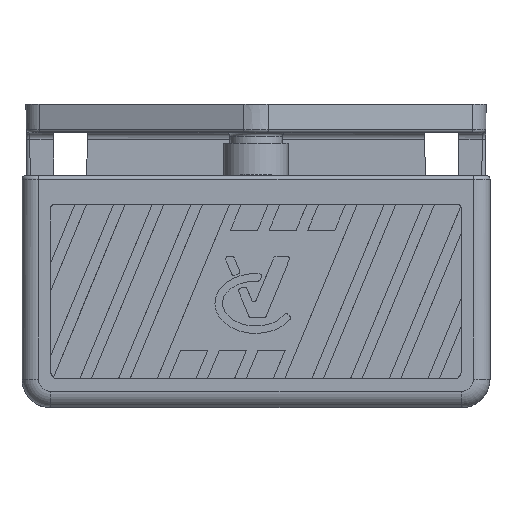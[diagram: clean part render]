
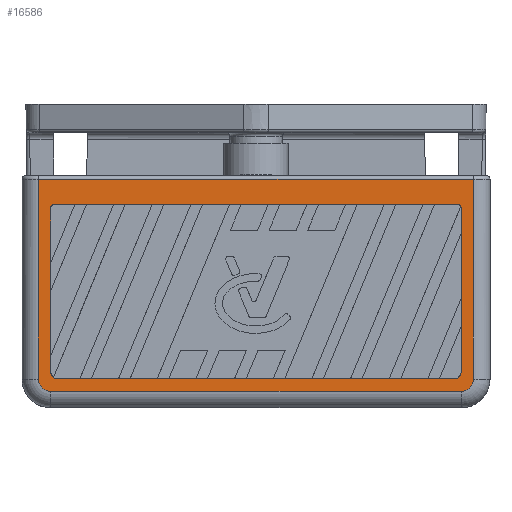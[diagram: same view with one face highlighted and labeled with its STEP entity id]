
A CAD part, front view. The second image highlights one B-rep face of the part: STEP entity #16586.
In plain terms, the highlighted planar face has unit normal (0, -1, 0) as drawn and (0, 0, 1) by its records, which use the part's own axes.
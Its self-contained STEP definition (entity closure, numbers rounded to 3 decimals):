
#160 = ORIENTED_EDGE ( 'NONE', *, *, #35277, .T. ) ;
#229 = DIRECTION ( 'NONE',  ( 0., 0., -1. ) ) ;
#723 = VECTOR ( 'NONE', #24442, 1000. ) ;
#1559 = EDGE_CURVE ( 'NONE', #21638, #21671, #14546, .T. ) ;
#1912 = LINE ( 'NONE', #27659, #34666 ) ;
#2143 = LINE ( 'NONE', #12544, #10408 ) ;
#2251 = CARTESIAN_POINT ( 'NONE',  ( -28.305, 12.219, 3.5 ) ) ;
#2341 = CARTESIAN_POINT ( 'NONE',  ( -27.719, 12.219, 3.5 ) ) ;
#2343 = LINE ( 'NONE', #14159, #8611 ) ;
#2480 = CARTESIAN_POINT ( 'NONE',  ( 28.219, -12.219, 3.5 ) ) ;
#2773 = ORIENTED_EDGE ( 'NONE', *, *, #24084, .T. ) ;
#2874 = FACE_OUTER_BOUND ( 'NONE', #27908, .T. ) ;
#2963 = CARTESIAN_POINT ( 'NONE',  ( -28.75, 12.25, 3.5 ) ) ;
#3060 = VERTEX_POINT ( 'NONE', #22863 ) ;
#3463 = VERTEX_POINT ( 'NONE', #5736 ) ;
#3522 = EDGE_CURVE ( 'NONE', #8889, #27818, #20742, .T. ) ;
#3848 = ORIENTED_EDGE ( 'NONE', *, *, #4167, .T. ) ;
#4167 = EDGE_CURVE ( 'NONE', #35154, #23277, #7636, .T. ) ;
#4351 = CARTESIAN_POINT ( 'NONE',  ( 28.719, 12.219, 3.5 ) ) ;
#4879 = CARTESIAN_POINT ( 'NONE',  ( 30.439, 12.25, 3.5 ) ) ;
#5274 = CARTESIAN_POINT ( 'NONE',  ( 28.75, 12.25, 3.5 ) ) ;
#5321 = CARTESIAN_POINT ( 'NONE',  ( 28.719, -12.012, 3.5 ) ) ;
#5552 = EDGE_CURVE ( 'NONE', #34509, #36035, #10334, .T. ) ;
#5736 = CARTESIAN_POINT ( 'NONE',  ( 28.719, -11.719, 3.5 ) ) ;
#5791 = CARTESIAN_POINT ( 'NONE',  ( -28.219, -12.219, 3.5 ) ) ;
#5973 = DIRECTION ( 'NONE',  ( -1., 0., 0. ) ) ;
#6690 = CARTESIAN_POINT ( 'NONE',  ( 28.719, 11.219, 3.5 ) ) ;
#7636 = CIRCLE ( 'NONE', #11804, 1.689 ) ;
#7680 = EDGE_CURVE ( 'NONE', #34509, #12288, #11594, .T. ) ;
#7781 = DIRECTION ( 'NONE',  ( 0., 1., 0. ) ) ;
#7846 = ORIENTED_EDGE ( 'NONE', *, *, #5552, .F. ) ;
#7908 = CARTESIAN_POINT ( 'NONE',  ( -27.719, 12.219, 3.5 ) ) ;
#8350 = ORIENTED_EDGE ( 'NONE', *, *, #32457, .T. ) ;
#8611 = VECTOR ( 'NONE', #17354, 1000. ) ;
#8889 = VERTEX_POINT ( 'NONE', #33153 ) ;
#9175 = AXIS2_PLACEMENT_3D ( 'NONE', #5274, #25506, #33806 ) ;
#9505 = CARTESIAN_POINT ( 'NONE',  ( 27.719, 12.219, 3.5 ) ) ;
#10334 = LINE ( 'NONE', #11067, #26271 ) ;
#10408 = VECTOR ( 'NONE', #10435, 1000. ) ;
#10435 = DIRECTION ( 'NONE',  ( 0., 1., 0. ) ) ;
#11067 = CARTESIAN_POINT ( 'NONE',  ( -28.719, -12.219, 3.5 ) ) ;
#11122 = CARTESIAN_POINT ( 'NONE',  ( 28.719, -11.719, 3.5 ) ) ;
#11517 = VERTEX_POINT ( 'NONE', #13819 ) ;
#11594 =( BOUNDED_CURVE ( )  B_SPLINE_CURVE ( 3, ( #13979, #28445, #14161, #14530 ),
 .UNSPECIFIED., .F., .F. ) 
 B_SPLINE_CURVE_WITH_KNOTS ( ( 4, 4 ),
 ( 2.356, 3.927 ),
 .UNSPECIFIED. ) 
 CURVE ( )  GEOMETRIC_REPRESENTATION_ITEM ( )  RATIONAL_B_SPLINE_CURVE ( ( 1., 0.805, 0.805, 1. ) ) 
 REPRESENTATION_ITEM ( '' )  );
#11804 = AXIS2_PLACEMENT_3D ( 'NONE', #2963, #20050, #5973 ) ;
#11980 = ORIENTED_EDGE ( 'NONE', *, *, #21001, .F. ) ;
#12288 = VERTEX_POINT ( 'NONE', #13982 ) ;
#12544 = CARTESIAN_POINT ( 'NONE',  ( 30.439, 12.25, 3.5 ) ) ;
#12899 = CARTESIAN_POINT ( 'NONE',  ( 28.219, -12.219, 3.5 ) ) ;
#13372 = DIRECTION ( 'NONE',  ( 0., -1., 0. ) ) ;
#13696 = EDGE_CURVE ( 'NONE', #11517, #23549, #27627, .T. ) ;
#13819 = CARTESIAN_POINT ( 'NONE',  ( 27.719, 12.219, 3.5 ) ) ;
#13979 = CARTESIAN_POINT ( 'NONE',  ( -28.219, -12.219, 3.5 ) ) ;
#13982 = CARTESIAN_POINT ( 'NONE',  ( -28.719, -11.719, 3.5 ) ) ;
#14145 = CARTESIAN_POINT ( 'NONE',  ( -28.75, 12.25, 3.5 ) ) ;
#14159 = CARTESIAN_POINT ( 'NONE',  ( -28.719, 12.219, 3.5 ) ) ;
#14161 = CARTESIAN_POINT ( 'NONE',  ( -28.719, -12.012, 3.5 ) ) ;
#14530 = CARTESIAN_POINT ( 'NONE',  ( -28.719, -11.719, 3.5 ) ) ;
#14546 = CIRCLE ( 'NONE', #9175, 1.689 ) ;
#14768 = AXIS2_PLACEMENT_3D ( 'NONE', #14145, #229, #22420 ) ;
#15438 = LINE ( 'NONE', #27091, #723 ) ;
#16369 =( BOUNDED_CURVE ( )  B_SPLINE_CURVE ( 3, ( #9505, #20957, #26757, #6690 ),
 .UNSPECIFIED., .F., .F. ) 
 B_SPLINE_CURVE_WITH_KNOTS ( ( 4, 4 ),
 ( 2.356, 3.927 ),
 .UNSPECIFIED. ) 
 CURVE ( )  GEOMETRIC_REPRESENTATION_ITEM ( )  RATIONAL_B_SPLINE_CURVE ( ( 1., 0.805, 0.805, 1. ) ) 
 REPRESENTATION_ITEM ( '' )  );
#16586 = ADVANCED_FACE ( 'NONE', ( #2874, #31241 ), #33705, .F. ) ;
#16719 = CARTESIAN_POINT ( 'NONE',  ( -28.719, 11.219, 3.5 ) ) ;
#17354 = DIRECTION ( 'NONE',  ( 0., -1., 0. ) ) ;
#17718 = CARTESIAN_POINT ( 'NONE',  ( -28.75, -15.724, 3.5 ) ) ;
#18104 = DIRECTION ( 'NONE',  ( 1., 0., 0. ) ) ;
#19111 = ORIENTED_EDGE ( 'NONE', *, *, #7680, .T. ) ;
#19141 = CARTESIAN_POINT ( 'NONE',  ( 28.75, 13.939, 3.5 ) ) ;
#19396 =( BOUNDED_CURVE ( )  B_SPLINE_CURVE ( 3, ( #16719, #22176, #2251, #7908 ),
 .UNSPECIFIED., .F., .F. ) 
 B_SPLINE_CURVE_WITH_KNOTS ( ( 4, 4 ),
 ( 2.356, 3.927 ),
 .UNSPECIFIED. ) 
 CURVE ( )  GEOMETRIC_REPRESENTATION_ITEM ( )  RATIONAL_B_SPLINE_CURVE ( ( 1., 0.805, 0.805, 1. ) ) 
 REPRESENTATION_ITEM ( '' )  );
#20050 = DIRECTION ( 'NONE',  ( 0., 0., 1. ) ) ;
#20284 = EDGE_CURVE ( 'NONE', #3060, #23549, #19396, .T. ) ;
#20742 = LINE ( 'NONE', #17718, #30353 ) ;
#20748 = ORIENTED_EDGE ( 'NONE', *, *, #13696, .F. ) ;
#20957 = CARTESIAN_POINT ( 'NONE',  ( 28.305, 12.219, 3.5 ) ) ;
#21001 = EDGE_CURVE ( 'NONE', #3463, #34410, #31033, .T. ) ;
#21301 = ORIENTED_EDGE ( 'NONE', *, *, #20284, .T. ) ;
#21587 = CARTESIAN_POINT ( 'NONE',  ( 28.719, 11.219, 3.5 ) ) ;
#21638 = VERTEX_POINT ( 'NONE', #4879 ) ;
#21671 = VERTEX_POINT ( 'NONE', #19141 ) ;
#22176 = CARTESIAN_POINT ( 'NONE',  ( -28.719, 11.805, 3.5 ) ) ;
#22327 = ORIENTED_EDGE ( 'NONE', *, *, #31256, .T. ) ;
#22420 = DIRECTION ( 'NONE',  ( -1., 0., 0. ) ) ;
#22516 = DIRECTION ( 'NONE',  ( 1., 0., 0. ) ) ;
#22745 = VECTOR ( 'NONE', #7781, 1000. ) ;
#22863 = CARTESIAN_POINT ( 'NONE',  ( -28.719, 11.219, 3.5 ) ) ;
#23277 = VERTEX_POINT ( 'NONE', #30784 ) ;
#23549 = VERTEX_POINT ( 'NONE', #2341 ) ;
#24084 = EDGE_CURVE ( 'NONE', #23277, #8889, #1912, .T. ) ;
#24442 = DIRECTION ( 'NONE',  ( -1., 0., 0. ) ) ;
#24604 = DIRECTION ( 'NONE',  ( -1., 0., 0. ) ) ;
#24612 = EDGE_LOOP ( 'NONE', ( #34248, #21301, #20748, #160, #11980, #8350, #7846, #19111 ) ) ;
#25452 = ORIENTED_EDGE ( 'NONE', *, *, #3522, .T. ) ;
#25506 = DIRECTION ( 'NONE',  ( 0., 0., 1. ) ) ;
#25758 = CARTESIAN_POINT ( 'NONE',  ( 28.512, -12.219, 3.5 ) ) ;
#26008 = CARTESIAN_POINT ( 'NONE',  ( -28.75, 13.939, 3.5 ) ) ;
#26271 = VECTOR ( 'NONE', #22516, 1000. ) ;
#26757 = CARTESIAN_POINT ( 'NONE',  ( 28.719, 11.805, 3.5 ) ) ;
#27091 = CARTESIAN_POINT ( 'NONE',  ( -28.75, 13.939, 3.5 ) ) ;
#27135 = CARTESIAN_POINT ( 'NONE',  ( 30.439, -15.724, 3.5 ) ) ;
#27627 = LINE ( 'NONE', #4351, #30765 ) ;
#27659 = CARTESIAN_POINT ( 'NONE',  ( -30.439, 12.25, 3.5 ) ) ;
#27674 = CARTESIAN_POINT ( 'NONE',  ( 28.719, -12.219, 3.5 ) ) ;
#27818 = VERTEX_POINT ( 'NONE', #27135 ) ;
#27908 = EDGE_LOOP ( 'NONE', ( #2773, #25452, #32092, #33560, #22327, #3848 ) ) ;
#28445 = CARTESIAN_POINT ( 'NONE',  ( -28.512, -12.219, 3.5 ) ) ;
#30353 = VECTOR ( 'NONE', #18104, 1000. ) ;
#30765 = VECTOR ( 'NONE', #24604, 1000. ) ;
#30784 = CARTESIAN_POINT ( 'NONE',  ( -30.439, 12.25, 3.5 ) ) ;
#31033 = LINE ( 'NONE', #27674, #22745 ) ;
#31241 = FACE_BOUND ( 'NONE', #24612, .T. ) ;
#31256 = EDGE_CURVE ( 'NONE', #21671, #35154, #15438, .T. ) ;
#31942 =( BOUNDED_CURVE ( )  B_SPLINE_CURVE ( 3, ( #11122, #5321, #25758, #2480 ),
 .UNSPECIFIED., .F., .F. ) 
 B_SPLINE_CURVE_WITH_KNOTS ( ( 4, 4 ),
 ( 2.356, 3.927 ),
 .UNSPECIFIED. ) 
 CURVE ( )  GEOMETRIC_REPRESENTATION_ITEM ( )  RATIONAL_B_SPLINE_CURVE ( ( 1., 0.805, 0.805, 1. ) ) 
 REPRESENTATION_ITEM ( '' )  );
#32007 = EDGE_CURVE ( 'NONE', #27818, #21638, #2143, .T. ) ;
#32092 = ORIENTED_EDGE ( 'NONE', *, *, #32007, .T. ) ;
#32127 = EDGE_CURVE ( 'NONE', #3060, #12288, #2343, .T. ) ;
#32457 = EDGE_CURVE ( 'NONE', #3463, #36035, #31942, .T. ) ;
#33153 = CARTESIAN_POINT ( 'NONE',  ( -30.439, -15.724, 3.5 ) ) ;
#33560 = ORIENTED_EDGE ( 'NONE', *, *, #1559, .T. ) ;
#33705 = PLANE ( 'NONE',  #14768 ) ;
#33806 = DIRECTION ( 'NONE',  ( -1., 0., 0. ) ) ;
#34248 = ORIENTED_EDGE ( 'NONE', *, *, #32127, .F. ) ;
#34410 = VERTEX_POINT ( 'NONE', #21587 ) ;
#34509 = VERTEX_POINT ( 'NONE', #5791 ) ;
#34666 = VECTOR ( 'NONE', #13372, 1000. ) ;
#35154 = VERTEX_POINT ( 'NONE', #26008 ) ;
#35277 = EDGE_CURVE ( 'NONE', #11517, #34410, #16369, .T. ) ;
#36035 = VERTEX_POINT ( 'NONE', #12899 ) ;
